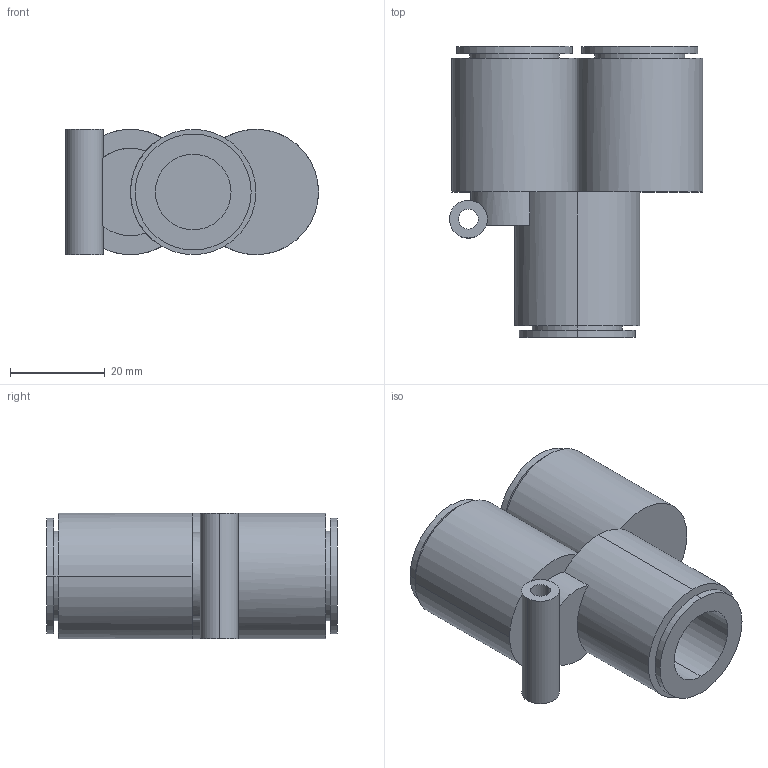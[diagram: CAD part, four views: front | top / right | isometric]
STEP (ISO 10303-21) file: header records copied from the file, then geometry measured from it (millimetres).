
FILE_DESCRIPTION( ( '' ), '1' );
FILE_NAME( 'G:/SMC狟婥/KQ2U16-00A.stp', '2023-03-07T03:36:25', ( '' ), ( '' ), ' ', ' ', ' ' );
FILE_SCHEMA( ( 'CONFIG_CONTROL_DESIGN' ) );
Length unit declared in the file: millimetre
Products named in the file (1): 1
Bounding box: 53.5 x 61.5 x 26.5 mm (x, y, z)
Volume: 36543.2 mm3; surface area: 15829.2 mm2
Topology: 1 solids, 1 shells, 56 faces, 127 edges, 82 vertices
Faces by surface type: cylinder 34, plane 22
Entity records: 1798 total; most frequent: CARTESIAN_POINT 416, DIRECTION 317, ORIENTED_EDGE 254, AXIS2_PLACEMENT_3D 136, EDGE_CURVE 127, VERTEX_POINT 82, CIRCLE 79, EDGE_LOOP 67
